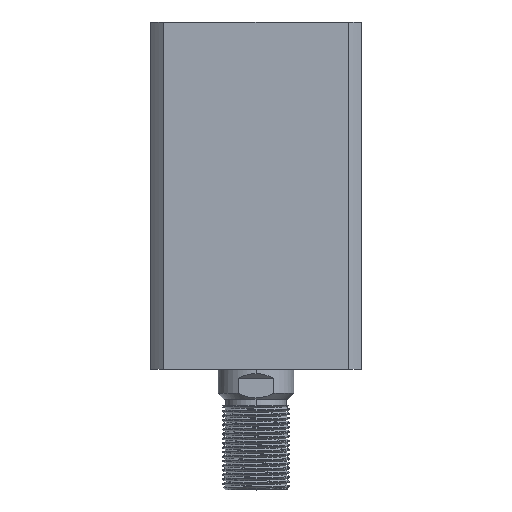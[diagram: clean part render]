
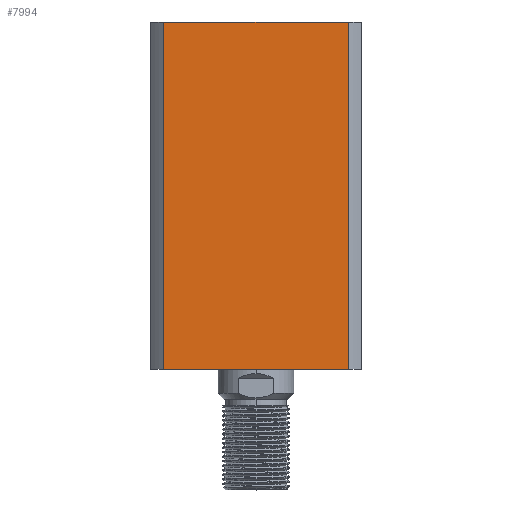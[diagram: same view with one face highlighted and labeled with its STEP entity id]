
A CAD part, top view. The second image highlights one B-rep face of the part: STEP entity #7994.
In plain terms, the highlighted planar face has unit normal (0, 0, 1) as drawn and (1, 0, 0) by its records, which use the part's own axes.
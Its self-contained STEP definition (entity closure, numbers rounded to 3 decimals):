
#28 = VERTEX_POINT ( 'NONE', #2123 ) ;
#340 = DIRECTION ( 'NONE',  ( 0., 0., 1. ) ) ;
#693 = VECTOR ( 'NONE', #5477, 1000. ) ;
#1354 = LINE ( 'NONE', #7591, #693 ) ;
#1805 = CARTESIAN_POINT ( 'NONE',  ( 35., 35., 0. ) ) ;
#1981 = EDGE_LOOP ( 'NONE', ( #8589, #7847, #10736, #3541 ) ) ;
#2123 = CARTESIAN_POINT ( 'NONE',  ( 35., 30.615, 115. ) ) ;
#2138 = DIRECTION ( 'NONE',  ( 0., 1., 0. ) ) ;
#2673 = VECTOR ( 'NONE', #11858, 1000. ) ;
#3086 = VERTEX_POINT ( 'NONE', #8106 ) ;
#3143 = AXIS2_PLACEMENT_3D ( 'NONE', #7475, #6606, #340 ) ;
#3395 = PLANE ( 'NONE',  #3143 ) ;
#3541 = ORIENTED_EDGE ( 'NONE', *, *, #10659, .T. ) ;
#4880 = CARTESIAN_POINT ( 'NONE',  ( 35., 35., 115. ) ) ;
#5477 = DIRECTION ( 'NONE',  ( 0., 0., 1. ) ) ;
#5664 = EDGE_CURVE ( 'NONE', #13138, #28, #7492, .T. ) ;
#5761 = LINE ( 'NONE', #10814, #2673 ) ;
#6606 = DIRECTION ( 'NONE',  ( -1., 0., 0. ) ) ;
#7114 = VECTOR ( 'NONE', #2138, 1000. ) ;
#7475 = CARTESIAN_POINT ( 'NONE',  ( 35., 35., 115. ) ) ;
#7492 = LINE ( 'NONE', #4880, #10286 ) ;
#7591 = CARTESIAN_POINT ( 'NONE',  ( 35., -30.615, 300. ) ) ;
#7847 = ORIENTED_EDGE ( 'NONE', *, *, #5664, .F. ) ;
#7994 = ADVANCED_FACE ( 'NONE', ( #11541 ), #3395, .F. ) ;
#8106 = CARTESIAN_POINT ( 'NONE',  ( 35., -30.615, 0. ) ) ;
#8589 = ORIENTED_EDGE ( 'NONE', *, *, #13223, .F. ) ;
#8593 = CARTESIAN_POINT ( 'NONE',  ( 35., -30.615, 115. ) ) ;
#10112 = VERTEX_POINT ( 'NONE', #12663 ) ;
#10156 = DIRECTION ( 'NONE',  ( 0., 1., 0. ) ) ;
#10286 = VECTOR ( 'NONE', #10156, 1000. ) ;
#10659 = EDGE_CURVE ( 'NONE', #3086, #10112, #12381, .T. ) ;
#10736 = ORIENTED_EDGE ( 'NONE', *, *, #12635, .F. ) ;
#10814 = CARTESIAN_POINT ( 'NONE',  ( 35., 30.615, 300. ) ) ;
#11541 = FACE_OUTER_BOUND ( 'NONE', #1981, .T. ) ;
#11858 = DIRECTION ( 'NONE',  ( 0., 0., -1. ) ) ;
#12381 = LINE ( 'NONE', #1805, #7114 ) ;
#12635 = EDGE_CURVE ( 'NONE', #3086, #13138, #1354, .T. ) ;
#12663 = CARTESIAN_POINT ( 'NONE',  ( 35., 30.615, 0. ) ) ;
#13138 = VERTEX_POINT ( 'NONE', #8593 ) ;
#13223 = EDGE_CURVE ( 'NONE', #28, #10112, #5761, .T. ) ;
